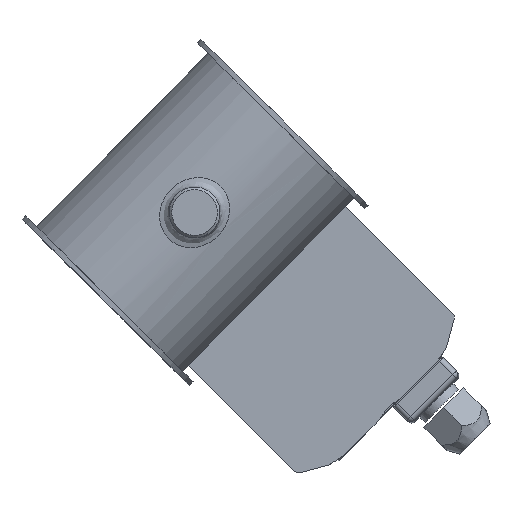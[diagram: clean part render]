
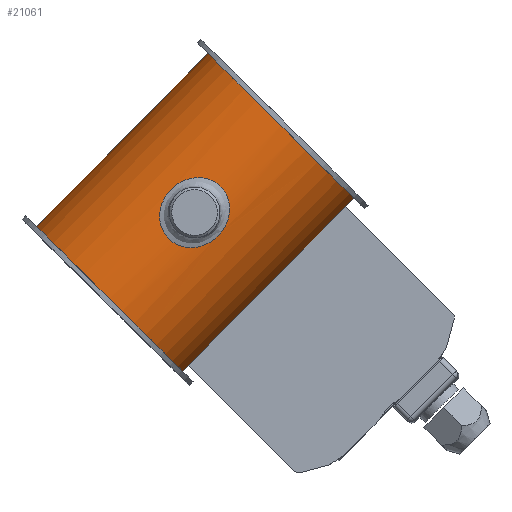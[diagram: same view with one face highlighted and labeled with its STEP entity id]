
A CAD part, top view. The second image highlights one B-rep face of the part: STEP entity #21061.
In plain terms, the highlighted cylindrical face has radius 40.5 mm (diameter 81 mm), a full revolution.
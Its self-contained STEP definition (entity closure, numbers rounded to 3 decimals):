
#20952=CARTESIAN_POINT('',(38.34,13.05,50.293));
#20953=VERTEX_POINT('',#20952);
#20963=CARTESIAN_POINT('',(38.338,13.052,50.293));
#20964=CARTESIAN_POINT('',(38.338,13.052,52.465));
#20965=CARTESIAN_POINT('',(38.664,12.146,56.821));
#20966=CARTESIAN_POINT('',(39.707,8.439,61.984));
#20967=CARTESIAN_POINT('',(40.531,3.049,64.91));
#20968=CARTESIAN_POINT('',(40.535,-3.017,64.916));
#20969=CARTESIAN_POINT('',(39.71,-8.418,62.005));
#20970=CARTESIAN_POINT('',(38.785,-11.722,57.413));
#20971=CARTESIAN_POINT('',(38.325,-13.096,52.521));
#20972=CARTESIAN_POINT('',(38.322,-13.101,48.088));
#20973=CARTESIAN_POINT('',(38.852,-11.536,42.479));
#20974=CARTESIAN_POINT('',(39.848,-7.878,38.105));
#20975=CARTESIAN_POINT('',(40.532,-2.361,35.675));
#20976=CARTESIAN_POINT('',(40.532,3.029,35.672));
#20977=CARTESIAN_POINT('',(39.71,8.422,38.591));
#20978=CARTESIAN_POINT('',(38.666,12.14,43.744));
#20979=CARTESIAN_POINT('',(38.338,13.052,48.121));
#20980=CARTESIAN_POINT('',(38.338,13.052,50.293));
#20981=CARTESIAN_POINT('',(38.338,13.052,50.293));
#20982=CARTESIAN_POINT('',(38.338,13.052,50.293));
#20983=CARTESIAN_POINT('',(38.338,13.052,50.293));
#20984=B_SPLINE_CURVE_WITH_KNOTS('',3,(#20963,#20964,#20965,#20966,#20967,#20968,#20969,#20970,#20971,#20972,#20973,#20974,#20975,#20976,#20977,#20978,#20979,#20980,#20981,#20982,#20983),.UNSPECIFIED.,.T.,.U.,(4,1,1,1,1,1,1,1,1,1,1,1,1,1,1,3,4),(-6.054,-5.622,-5.189,-4.757,-4.324,-3.892,-3.459,-3.171,-2.883,-2.595,-2.018,-1.73,-1.297,-0.865,-0.432,0.0,0.),.UNSPECIFIED.);
#20985=EDGE_CURVE('',#20953,#20953,#20984,.T.);
#20990=CARTESIAN_POINT('',(0.0,0.0,0.0));
#20991=DIRECTION('',(0.0,0.0,1.0));
#20992=DIRECTION('',(-1.0,0.0,0.0));
#20993=AXIS2_PLACEMENT_3D('',#20990,#20991,#20992);
#20994=CYLINDRICAL_SURFACE('',#20993,40.5);
#20995=CARTESIAN_POINT('',(40.5,0.,98.0));
#20996=VERTEX_POINT('',#20995);
#20997=CARTESIAN_POINT('',(0.0,0.0,98.0));
#20998=DIRECTION('',(0.0,0.0,-1.0));
#20999=DIRECTION('',(-1.0,0.0,0.0));
#21000=AXIS2_PLACEMENT_3D('',#20997,#20998,#20999);
#21001=CIRCLE('',#21000,40.5);
#21002=EDGE_CURVE('',#20996,#20996,#21001,.T.);
#21003=ORIENTED_EDGE('',*,*,#21002,.T.);
#21004=EDGE_LOOP('',(#21003));
#21005=FACE_OUTER_BOUND('',#21004,.T.);
#21006=CARTESIAN_POINT('',(-40.5,0.,2.0));
#21007=VERTEX_POINT('',#21006);
#21008=CARTESIAN_POINT('',(0.0,0.0,2.0));
#21009=DIRECTION('',(0.0,0.0,1.0));
#21010=DIRECTION('',(-1.0,0.0,0.0));
#21011=AXIS2_PLACEMENT_3D('',#21008,#21009,#21010);
#21012=CIRCLE('',#21011,40.5);
#21013=EDGE_CURVE('',#21007,#21007,#21012,.T.);
#21014=ORIENTED_EDGE('',*,*,#21013,.T.);
#21015=EDGE_LOOP('',(#21014));
#21016=FACE_BOUND('',#21015,.T.);
#21017=CARTESIAN_POINT('',(-39.246,10.0,50.293));
#21018=VERTEX_POINT('',#21017);
#21019=CARTESIAN_POINT('',(-39.246,10.0,50.293));
#21020=CARTESIAN_POINT('',(-39.246,10.0,51.554));
#21021=CARTESIAN_POINT('',(-39.313,9.747,52.896));
#21022=CARTESIAN_POINT('',(-39.553,8.725,55.358));
#21023=CARTESIAN_POINT('',(-39.721,7.956,56.479));
#21024=CARTESIAN_POINT('',(-40.035,6.186,58.249));
#21025=CARTESIAN_POINT('',(-40.201,5.065,59.018));
#21026=CARTESIAN_POINT('',(-40.435,2.603,60.04));
#21027=CARTESIAN_POINT('',(-40.5,1.261,60.293));
#21028=CARTESIAN_POINT('',(-40.5,-1.261,60.293));
#21029=CARTESIAN_POINT('',(-40.435,-2.603,60.04));
#21030=CARTESIAN_POINT('',(-40.201,-5.065,59.018));
#21031=CARTESIAN_POINT('',(-40.035,-6.186,58.249));
#21032=CARTESIAN_POINT('',(-39.721,-7.956,56.479));
#21033=CARTESIAN_POINT('',(-39.553,-8.725,55.358));
#21034=CARTESIAN_POINT('',(-39.313,-9.747,52.896));
#21035=CARTESIAN_POINT('',(-39.246,-10.0,51.554));
#21036=CARTESIAN_POINT('',(-39.246,-10.0,49.032));
#21037=CARTESIAN_POINT('',(-39.313,-9.747,47.69));
#21038=CARTESIAN_POINT('',(-39.553,-8.725,45.228));
#21039=CARTESIAN_POINT('',(-39.721,-7.956,44.107));
#21040=CARTESIAN_POINT('',(-40.035,-6.186,42.337));
#21041=CARTESIAN_POINT('',(-40.201,-5.065,41.568));
#21042=CARTESIAN_POINT('',(-40.435,-2.603,40.546));
#21043=CARTESIAN_POINT('',(-40.5,-1.261,40.293));
#21044=CARTESIAN_POINT('',(-40.5,1.261,40.293));
#21045=CARTESIAN_POINT('',(-40.435,2.603,40.546));
#21046=CARTESIAN_POINT('',(-40.201,5.065,41.568));
#21047=CARTESIAN_POINT('',(-40.035,6.186,42.337));
#21048=CARTESIAN_POINT('',(-39.721,7.956,44.107));
#21049=CARTESIAN_POINT('',(-39.553,8.725,45.228));
#21050=CARTESIAN_POINT('',(-39.313,9.747,47.69));
#21051=CARTESIAN_POINT('',(-39.246,10.0,49.032));
#21052=CARTESIAN_POINT('',(-39.246,10.0,50.293));
#21053=B_SPLINE_CURVE_WITH_KNOTS('',3,(#21019,#21020,#21021,#21022,#21023,#21024,#21025,#21026,#21027,#21028,#21029,#21030,#21031,#21032,#21033,#21034,#21035,#21036,#21037,#21038,#21039,#21040,#21041,#21042,#21043,#21044,#21045,#21046,#21047,#21048,#21049,#21050,#21051,#21052),.UNSPECIFIED.,.T.,.U.,(4,2,2,2,2,2,2,2,2,2,2,2,2,2,2,2,4),(0.0,0.378,0.757,1.135,1.514,1.892,2.27,2.649,3.027,3.405,3.784,4.162,4.541,4.919,5.297,5.676,6.054),.UNSPECIFIED.);
#21054=EDGE_CURVE('',#21018,#21018,#21053,.T.);
#21055=ORIENTED_EDGE('',*,*,#21054,.T.);
#21056=EDGE_LOOP('',(#21055));
#21057=FACE_BOUND('',#21056,.T.);
#21058=ORIENTED_EDGE('',*,*,#20985,.F.);
#21059=EDGE_LOOP('',(#21058));
#21060=FACE_BOUND('',#21059,.T.);
#21061=ADVANCED_FACE('',(#21005,#21016,#21057,#21060),#20994,.T.);
